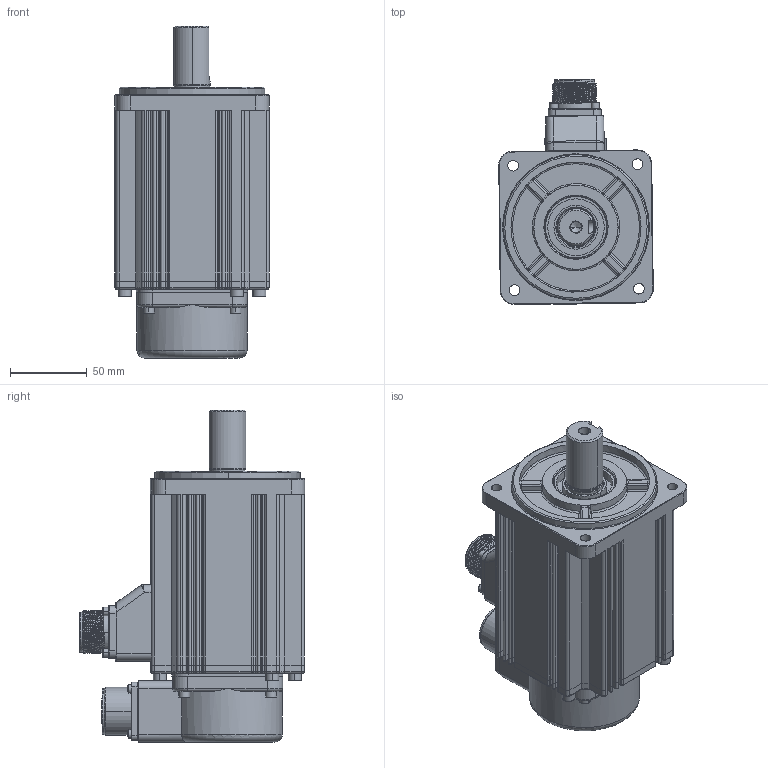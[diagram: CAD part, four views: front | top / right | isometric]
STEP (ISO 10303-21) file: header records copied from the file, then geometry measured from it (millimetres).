
FILE_DESCRIPTION((''),'2;1');
FILE_NAME('IMS20B-10M20C30C-00_ASM','2024-10-24T09:29:42',('0109067'),(''),'CREO PARAMETRIC BY PTC INC, 2019080','CREO PARAMETRIC BY PTC INC, 2019080','');
FILE_SCHEMA(('CONFIG_CONTROL_DESIGN'));
Products named in the file (17): 100_JIKE_20C_L64_2; 50051-00115_1; 18-A6-18FLANGE-CUSTOM-3D_1; ISO4762-M3X30-8_8_1; 100_DZZJ_20C_ASM_2_ASM; 100-20C_ZHOU_L64_1; 100_HDG_1; 100_ZZZJ_20C_ASM_1_ASM; 100_FHZ_1; CMS3102A20-29PE9-A-3D_1; ISO7045-M3X16-4_8_1; ISO4762-M4X16-8_8_1; 100_FHZ_ASM_1_ASM; 13000_1; ISO4762-M5X16-8_8_1; IMS20B-10M20C30C_ASM_2_ASM; IMS20B-10M20C30C-00_ASM
Assembly tree (28 placements, depth 4):
  IMS20B-10M20C30C-00_ASM
    IMS20B-10M20C30C_ASM_2_ASM
      100_DZZJ_20C_ASM_2_ASM
        100_JIKE_20C_L64_2
        50051-00115_1
        18-A6-18FLANGE-CUSTOM-3D_1
        ISO4762-M3X30-8_8_1  x4
      100_ZZZJ_20C_ASM_1_ASM
        100-20C_ZHOU_L64_1
        100_HDG_1
      100_FHZ_ASM_1_ASM
        100_FHZ_1
        CMS3102A20-29PE9-A-3D_1
        ISO7045-M3X16-4_8_1  x4
        ISO4762-M4X16-8_8_1  x4
      13000_1
      ISO4762-M5X16-8_8_1  x4
Bounding box: 100.95 x 147.22 x 217 mm (x, y, z)
Volume: 1451380.9 mm3; surface area: 195987.1 mm2
Topology: 24 solids, 61 shells, 4205 faces, 11452 edges, 7494 vertices
Faces by surface type: plane 2034, cylinder 902, extrusion 812, torus 207, cone 133, sphere 77, bspline 40
Entity records: 136174 total; most frequent: CARTESIAN_POINT 37574, ORIENTED_EDGE 21414, DIRECTION 18217, EDGE_CURVE 10751, VECTOR 7289, VERTEX_POINT 7104, LINE 6477, AXIS2_PLACEMENT_3D 5464
